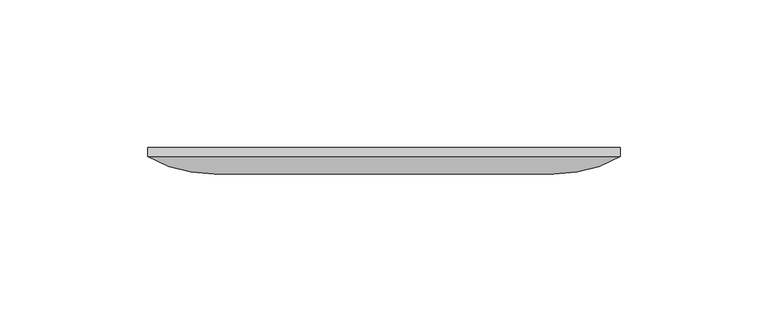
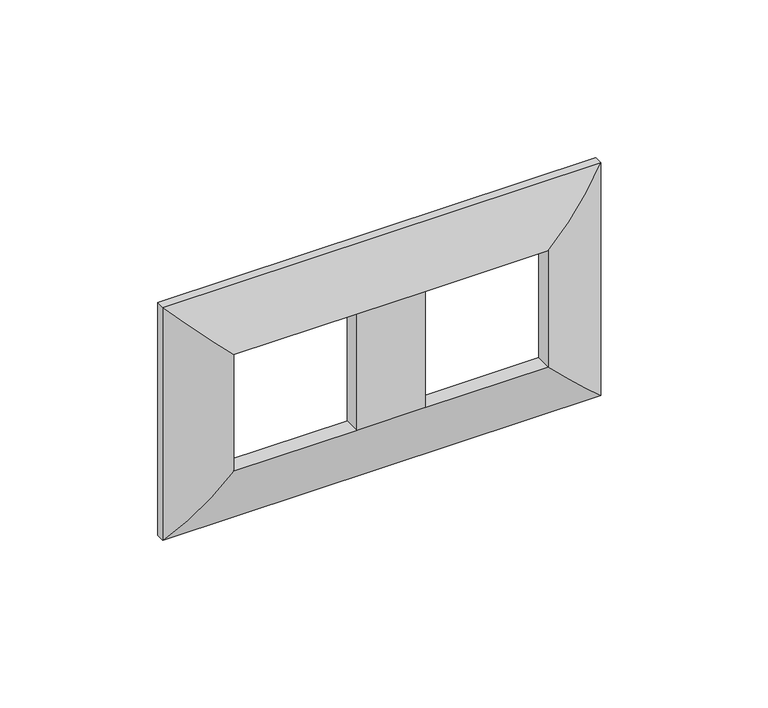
"""IFC4 building model written with IfcOpenShell, lengths in millimetres: proxy geometry."""

from ifc_helpers import new_model, si_unit, frame, origin, place, context, project, spatial, ellipse_curve, source, transform, mapped, element, save
from ifc_brep_helpers import plane_surface, cylinder_surface, advanced_brep


def electrical_fixtures_91fae2c1(model_context):
    return source(origin(), model_context, "Body", "AdvancedBrep", [
        advanced_brep(
        [(57.5, -3.0, -22.5), (57.5, -9.0, -22.5), (57.5, -9.0, 22.5), (57.5, -3.0, 22.5), (12.5, -9.0, 22.5), (12.5, -3.0, 22.5), (-57.5, -9.0, 22.5), (-57.5, -3.0, 22.5), (-12.5, -3.0, 22.5), (-12.5, -9.0, 22.5), (-57.5, -9.0, -22.5), (-57.5, -3.0, -22.5), (12.5, -3.0, -22.5), (12.5, -9.0, -22.5), (-12.5, -9.0, -22.5), (-12.5, -3.0, -22.5), (80.0, 0.0, -45.0), (-80.0, 0.0, -45.0), (-80.0, 0.0, 45.0), (80.0, 0.0, 45.0), (70.5, 0.0, 35.5), (-70.5, 0.0, 35.5), (-70.5, 0.0, -35.5), (70.5, 0.0, -35.5), (80.0, -3.0228771, 45.0), (80.0, -3.0228771, -45.0), (-80.0, -3.0228771, 45.0), (-80.0, -3.0228771, -45.0), (70.5, -3.0, -35.5), (70.5, -3.0, 35.5), (-70.5, -3.0, 35.5), (-70.5, -3.0, -35.5)],
        [
            (0, 1),
            (1, 2),
            (2, 3),
            (3, 0),
            (2, 4),
            (4, 5),
            (5, 3),
            (6, 7),
            (7, 8),
            (8, 9),
            (9, 6),
            (6, 10),
            (10, 11),
            (11, 7),
            (0, 12),
            (12, 13),
            (13, 1),
            (10, 14),
            (14, 15),
            (15, 11),
            (16, 17),
            (17, 18),
            (18, 19),
            (19, 16),
            (20, 21),
            (21, 22),
            (22, 23),
            (23, 20),
            (19, 24),
            (24, 25),
            (25, 16),
            (1, 25, ellipse_curve(frame((57.9967238, 34.4676878, -22.9967238), z_axis=(0.7071067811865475, 0.0, 0.7071067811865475), x_axis=(0.7071067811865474, 0.0, -0.7071067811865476)), 61.4766072, 43.4705258)),
            (24, 2, ellipse_curve(frame((57.9967238, 34.4676878, 22.9967238), z_axis=(0.7071067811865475, 0.0, -0.7071067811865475), x_axis=(-0.7071067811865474, 0.0, -0.7071067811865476)), 61.4766072, 43.4705258)),
            (18, 26),
            (26, 24),
            (26, 6, ellipse_curve(frame((-57.9967238, 34.4676878, 22.9967238), z_axis=(0.7071067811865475, 0.0, 0.7071067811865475), x_axis=(0.7071067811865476, 0.0, -0.7071067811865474)), 61.4766072, 43.4705258)),
            (9, 4),
            (17, 27),
            (27, 26),
            (27, 10, ellipse_curve(frame((-57.9967238, 34.4676878, -22.9967238), z_axis=(-0.7071067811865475, 0.0, 0.7071067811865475), x_axis=(0.7071067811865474, 0.0, 0.7071067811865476)), 61.4766072, 43.4705258)),
            (25, 27),
            (13, 14),
            (23, 28),
            (28, 29),
            (29, 20),
            (29, 30),
            (30, 21),
            (30, 31),
            (31, 22),
            (28, 31),
            (5, 12),
            (15, 8),
            (9, 14),
            (13, 4),
        ],
        [
            plane_surface(frame((57.5, -9.0, -22.5), z_axis=(-1.0, 0.0, 0.0), x_axis=(0.0, 0.0, 1.0))),
            plane_surface(frame((57.5, -9.0, 22.5), z_axis=(0.0, 0.0, -1.0), x_axis=(-1.0, 0.0, 0.0))),
            plane_surface(frame((-57.5, -9.0, 22.5), z_axis=(1.0, 0.0, 0.0), x_axis=(0.0, 0.0, -1.0))),
            plane_surface(frame((-57.5, -9.0, -22.5), z_axis=(0.0, 0.0, 1.0), x_axis=(1.0, 0.0, 0.0))),
            plane_surface(frame((-70.5, 0.0, -35.5), z_axis=(0.0, 1.0, 0.0), x_axis=(1.0, 0.0, 0.0))),
            plane_surface(frame((80.0, 0.0, -45.0), z_axis=(1.0, 0.0, 0.0), x_axis=(0.0, 0.0, 1.0))),
            cylinder_surface(frame((57.9967238, 34.4676878, -45.0), z_axis=(0.0, 0.0, -1.0), x_axis=(-1.0, 0.0, 0.0)), 43.4705258),
            plane_surface(frame((80.0, 0.0, 45.0), z_axis=(0.0, 0.0, 1.0), x_axis=(-1.0, 0.0, 0.0))),
            cylinder_surface(frame((80.0, 34.4676878, 22.9967238), z_axis=(1.0, 0.0, 0.0), x_axis=(0.0, 0.0, -1.0)), 43.4705258),
            plane_surface(frame((-80.0, 0.0, 45.0), z_axis=(-1.0, 0.0, 0.0), x_axis=(0.0, 0.0, -1.0))),
            cylinder_surface(frame((-57.9967238, 34.4676878, 45.0), z_axis=(0.0, 0.0, 1.0), x_axis=(1.0, 0.0, 0.0)), 43.4705258),
            plane_surface(frame((-80.0, 0.0, -45.0), z_axis=(0.0, 0.0, -1.0), x_axis=(1.0, 0.0, 0.0))),
            cylinder_surface(frame((-80.0, 34.4676878, -22.9967238), z_axis=(-1.0, 0.0, 0.0), x_axis=(0.0, 0.0, 1.0)), 43.4705258),
            plane_surface(frame((70.5, -3.0, -35.5), z_axis=(-1.0, 0.0, 0.0), x_axis=(0.0, 0.0, 1.0))),
            plane_surface(frame((70.5, -3.0, 35.5), z_axis=(0.0, 0.0, -1.0), x_axis=(-1.0, 0.0, 0.0))),
            plane_surface(frame((-70.5, -3.0, 35.5), z_axis=(1.0, 0.0, 0.0), x_axis=(0.0, 0.0, -1.0))),
            plane_surface(frame((-57.5, -3.0, -22.5), z_axis=(0.0, 1.0, 0.0), x_axis=(1.0, 0.0, 0.0))),
            plane_surface(frame((-70.5, -3.0, -35.5), z_axis=(0.0, 0.0, 1.0), x_axis=(1.0, 0.0, 0.0))),
            plane_surface(frame((-12.5, -9.0, 22.5), z_axis=(0.0, -1.0, 0.0), x_axis=(-1.0, 0.0, 0.0))),
            plane_surface(frame((-12.5, -9.0, 22.5), z_axis=(-1.0, 0.0, 0.0), x_axis=(0.0, 1.0, 0.0))),
            plane_surface(frame((12.5, -9.0, -22.5), z_axis=(1.0, 0.0, 0.0), x_axis=(0.0, 1.0, 0.0))),
        ],
        [
            (0, [[1, 2, 3, 4]]),
            (1, [[-3, 5, 6, 7]]),
            (1, [[8, 9, 10, 11]]),
            (2, [[-8, 12, 13, 14]]),
            (3, [[-1, 15, 16, 17]]),
            (3, [[-13, 18, 19, 20]]),
            (4, [[21, 22, 23, 24], [25, 26, 27, 28]]),
            (5, [[-24, 29, 30, 31]]),
            (6, [[-2, 32, -30, 33]]),
            (7, [[-23, 34, 35, -29]]),
            (8, [[-33, -35, 36, -11, 37, -5]]),
            (9, [[-22, 38, 39, -34]]),
            (10, [[-12, -36, -39, 40]]),
            (11, [[-21, -31, 41, -38]]),
            (12, [[-32, -17, 42, -18, -40, -41]]),
            (13, [[-28, 43, 44, 45]]),
            (14, [[-25, -45, 46, 47]]),
            (15, [[-26, -47, 48, 49]]),
            (16, [[-44, 50, -48, -46], [-4, -7, 51, -15], [-20, 52, -9, -14]]),
            (17, [[-27, -49, -50, -43]]),
            (18, [[53, -42, 54, -37]]),
            (19, [[-53, -10, -52, -19]]),
            (20, [[-54, -16, -51, -6]]),
        ],
    ),
    ])


if __name__ == "__main__":
    model = new_model("IFC4")
    model_context = context("Model", 3, world=origin())
    ifc_project = project(units=[si_unit("LENGTHUNIT", "METRE", prefix="MILLI")], contexts=[model_context])
    site = spatial("IfcSite", under=ifc_project)
    building = spatial("IfcBuilding", under=site)
    placement = place(None, origin())
    electrical_fixtures_shape = electrical_fixtures_91fae2c1(model_context)
    element("IfcBuildingElementProxy", 1, Name="Electrical Fixtures", at=placement, inside=building, context=model_context, shape_type="MappedRepresentation", body=[
        mapped(electrical_fixtures_shape, transform((0.0, 0.0, 0.0), x_axis=(1.0, 0.0, 0.0), y_axis=(0.0, 1.0, 0.0), z_axis=(0.0, 0.0, 1.0))),
    ])
    save(model, "model.ifc")
